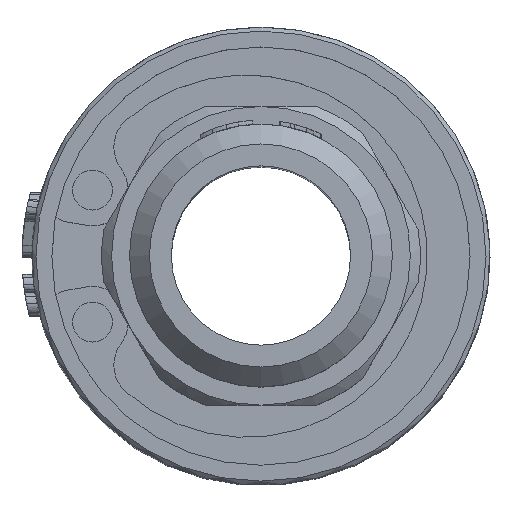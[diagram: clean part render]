
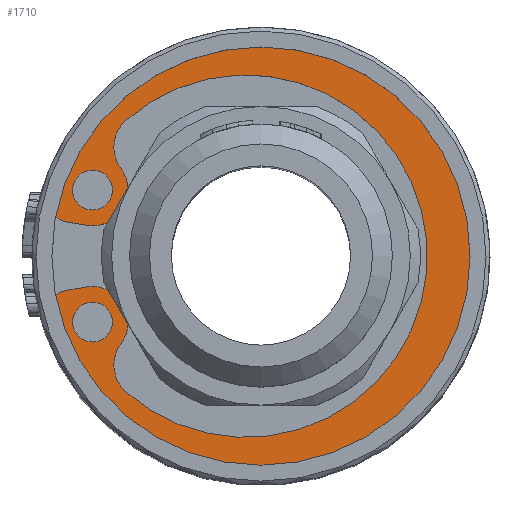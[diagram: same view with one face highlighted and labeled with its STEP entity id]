
A CAD part, top view. The second image highlights one B-rep face of the part: STEP entity #1710.
In plain terms, the highlighted planar face has unit normal (0, 0, 1).
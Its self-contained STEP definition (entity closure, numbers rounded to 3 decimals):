
#213=FACE_BOUND('',#4206,.T.);
#214=FACE_BOUND('',#4207,.T.);
#215=FACE_BOUND('',#4208,.T.);
#1710=ADVANCED_FACE('',(#213,#214,#215),#2327,.T.);
#2327=PLANE('',#20223);
#4206=EDGE_LOOP('',(#11124));
#4207=EDGE_LOOP('',(#11125,#11126,#11127,#11128,#11129,#11130,#11131,#11132,
#11133,#11134,#11135,#11136,#11137,#11138));
#4208=EDGE_LOOP('',(#11139));
#4633=CIRCLE('',#20192,11.);
#4634=CIRCLE('',#20197,6.6);
#4635=CIRCLE('',#20199,6.6);
#4636=CIRCLE('',#20201,1.793);
#4637=CIRCLE('',#20203,1.793);
#4638=CIRCLE('',#20205,1.793);
#4639=CIRCLE('',#20207,1.793);
#4640=CIRCLE('',#20209,9.1);
#4641=CIRCLE('',#20211,1.);
#4642=CIRCLE('',#20213,1.793);
#4643=CIRCLE('',#20216,1.793);
#4644=CIRCLE('',#20218,1.);
#4645=CIRCLE('',#20221,1.);
#4646=CIRCLE('',#20222,1.);
#11124=ORIENTED_EDGE('',*,*,#17551,.F.);
#11125=ORIENTED_EDGE('',*,*,#17550,.T.);
#11126=ORIENTED_EDGE('',*,*,#17548,.T.);
#11127=ORIENTED_EDGE('',*,*,#17523,.F.);
#11128=ORIENTED_EDGE('',*,*,#17542,.F.);
#11129=ORIENTED_EDGE('',*,*,#17545,.F.);
#11130=ORIENTED_EDGE('',*,*,#17543,.F.);
#11131=ORIENTED_EDGE('',*,*,#17531,.T.);
#11132=ORIENTED_EDGE('',*,*,#17535,.F.);
#11133=ORIENTED_EDGE('',*,*,#17532,.F.);
#11134=ORIENTED_EDGE('',*,*,#17540,.F.);
#11135=ORIENTED_EDGE('',*,*,#17536,.T.);
#11136=ORIENTED_EDGE('',*,*,#17539,.T.);
#11137=ORIENTED_EDGE('',*,*,#17528,.F.);
#11138=ORIENTED_EDGE('',*,*,#17546,.T.);
#11139=ORIENTED_EDGE('',*,*,#17552,.T.);
#14858=VERTEX_POINT('',#37574);
#14859=VERTEX_POINT('',#37575);
#14860=VERTEX_POINT('',#37583);
#14861=VERTEX_POINT('',#37585);
#14862=VERTEX_POINT('',#37589);
#14863=VERTEX_POINT('',#37591);
#14864=VERTEX_POINT('',#37595);
#14865=VERTEX_POINT('',#37596);
#14866=VERTEX_POINT('',#37603);
#14867=VERTEX_POINT('',#37604);
#14868=VERTEX_POINT('',#37613);
#14869=VERTEX_POINT('',#37617);
#14870=VERTEX_POINT('',#37623);
#14871=VERTEX_POINT('',#37627);
#14872=VERTEX_POINT('',#37633);
#14873=VERTEX_POINT('',#37635);
#17523=EDGE_CURVE('',#14858,#14859,#4633,.T.);
#17528=EDGE_CURVE('',#14861,#14860,#4634,.T.);
#17531=EDGE_CURVE('',#14862,#14863,#4635,.T.);
#17532=EDGE_CURVE('',#14864,#14865,#4636,.T.);
#17535=EDGE_CURVE('',#14865,#14863,#4637,.T.);
#17536=EDGE_CURVE('',#14866,#14867,#4638,.T.);
#17539=EDGE_CURVE('',#14867,#14860,#4639,.T.);
#17540=EDGE_CURVE('',#14866,#14864,#4640,.T.);
#17542=EDGE_CURVE('',#14868,#14858,#4641,.T.);
#17543=EDGE_CURVE('',#14862,#14869,#4642,.T.);
#17545=EDGE_CURVE('',#14869,#14868,#18663,.T.);
#17546=EDGE_CURVE('',#14861,#14870,#4643,.T.);
#17548=EDGE_CURVE('',#14871,#14859,#4644,.T.);
#17550=EDGE_CURVE('',#14870,#14871,#18666,.T.);
#17551=EDGE_CURVE('',#14872,#14872,#4645,.T.);
#17552=EDGE_CURVE('',#14873,#14873,#4646,.T.);
#18663=LINE('',#37620,#19573);
#18666=LINE('',#37630,#19576);
#19573=VECTOR('',#21954,1.);
#19576=VECTOR('',#21967,1.);
#20192=AXIS2_PLACEMENT_3D('',#37573,#21896,#21897);
#20197=AXIS2_PLACEMENT_3D('',#37586,#21910,#21911);
#20199=AXIS2_PLACEMENT_3D('',#37592,#21916,#21917);
#20201=AXIS2_PLACEMENT_3D('',#37594,#21920,#21921);
#20203=AXIS2_PLACEMENT_3D('',#37600,#21926,#21927);
#20205=AXIS2_PLACEMENT_3D('',#37602,#21930,#21931);
#20207=AXIS2_PLACEMENT_3D('',#37608,#21936,#21937);
#20209=AXIS2_PLACEMENT_3D('',#37610,#21940,#21941);
#20211=AXIS2_PLACEMENT_3D('',#37614,#21945,#21946);
#20213=AXIS2_PLACEMENT_3D('',#37616,#21949,#21950);
#20216=AXIS2_PLACEMENT_3D('',#37622,#21957,#21958);
#20218=AXIS2_PLACEMENT_3D('',#37626,#21962,#21963);
#20221=AXIS2_PLACEMENT_3D('',#37632,#21970,#21971);
#20222=AXIS2_PLACEMENT_3D('',#37634,#21972,#21973);
#20223=AXIS2_PLACEMENT_3D('',#37636,#21974,#21975);
#21896=DIRECTION('',(0.,0.,-1.));
#21897=DIRECTION('',(0.,1.,0.));
#21910=DIRECTION('',(0.,0.,1.));
#21911=DIRECTION('',(0.,1.,0.));
#21916=DIRECTION('',(0.,0.,-1.));
#21917=DIRECTION('',(0.,-1.,0.));
#21920=DIRECTION('',(0.,0.,1.));
#21921=DIRECTION('',(0.,-1.,0.));
#21926=DIRECTION('',(0.,0.,-1.));
#21927=DIRECTION('',(0.,-1.,0.));
#21930=DIRECTION('',(0.,0.,-1.));
#21931=DIRECTION('',(0.,1.,0.));
#21936=DIRECTION('',(0.,0.,1.));
#21937=DIRECTION('',(0.,1.,0.));
#21940=DIRECTION('',(0.,0.,1.));
#21941=DIRECTION('',(0.,1.,0.));
#21945=DIRECTION('',(0.,0.,-1.));
#21946=DIRECTION('',(0.,-1.,0.));
#21949=DIRECTION('',(0.,0.,-1.));
#21950=DIRECTION('',(0.,-1.,0.));
#21954=DIRECTION('',(-0.985,0.174,0.));
#21957=DIRECTION('',(0.,0.,1.));
#21958=DIRECTION('',(0.,1.,0.));
#21962=DIRECTION('',(0.,0.,1.));
#21963=DIRECTION('',(0.,1.,0.));
#21967=DIRECTION('',(-0.985,-0.174,0.));
#21970=DIRECTION('',(0.,0.,1.));
#21971=DIRECTION('',(0.,1.,0.));
#21972=DIRECTION('',(0.,0.,-1.));
#21973=DIRECTION('',(0.,-1.,0.));
#21974=DIRECTION('',(0.,0.,1.));
#21975=DIRECTION('',(0.,-1.,0.));
#37573=CARTESIAN_POINT('',(0.,0.,27.));
#37574=CARTESIAN_POINT('',(-10.588,2.984,27.));
#37575=CARTESIAN_POINT('',(-10.588,-2.984,27.));
#37583=CARTESIAN_POINT('',(-6.814,-2.605,27.));
#37585=CARTESIAN_POINT('',(-6.814,-2.605,27.));
#37586=CARTESIAN_POINT('',(-0.75,0.,27.));
#37589=CARTESIAN_POINT('',(-6.814,2.605,27.));
#37591=CARTESIAN_POINT('',(-6.814,2.605,27.));
#37592=CARTESIAN_POINT('',(-0.75,0.,27.));
#37594=CARTESIAN_POINT('',(-5.596,5.469,27.));
#37595=CARTESIAN_POINT('',(-6.785,6.811,27.));
#37596=CARTESIAN_POINT('',(-7.029,4.391,27.));
#37600=CARTESIAN_POINT('',(-8.462,3.313,27.));
#37602=CARTESIAN_POINT('',(-5.596,-5.469,27.));
#37603=CARTESIAN_POINT('',(-6.785,-6.811,27.));
#37604=CARTESIAN_POINT('',(-7.029,-4.391,27.));
#37608=CARTESIAN_POINT('',(-8.462,-3.313,27.));
#37610=CARTESIAN_POINT('',(-0.75,0.,27.));
#37613=CARTESIAN_POINT('',(-9.799,1.728,27.));
#37614=CARTESIAN_POINT('',(-9.625,2.713,27.));
#37616=CARTESIAN_POINT('',(-8.462,3.313,27.));
#37617=CARTESIAN_POINT('',(-8.773,1.547,27.));
#37620=CARTESIAN_POINT('',(0.,0.,27.));
#37622=CARTESIAN_POINT('',(-8.462,-3.313,27.));
#37623=CARTESIAN_POINT('',(-8.773,-1.547,27.));
#37626=CARTESIAN_POINT('',(-9.625,-2.713,27.));
#37627=CARTESIAN_POINT('',(-9.799,-1.728,27.));
#37630=CARTESIAN_POINT('',(0.,0.,27.));
#37632=CARTESIAN_POINT('',(-8.462,-3.313,27.));
#37633=CARTESIAN_POINT('',(-8.462,-2.313,27.));
#37634=CARTESIAN_POINT('',(-8.462,3.313,27.));
#37635=CARTESIAN_POINT('',(-8.462,2.313,27.));
#37636=CARTESIAN_POINT('',(0.,0.,27.));
